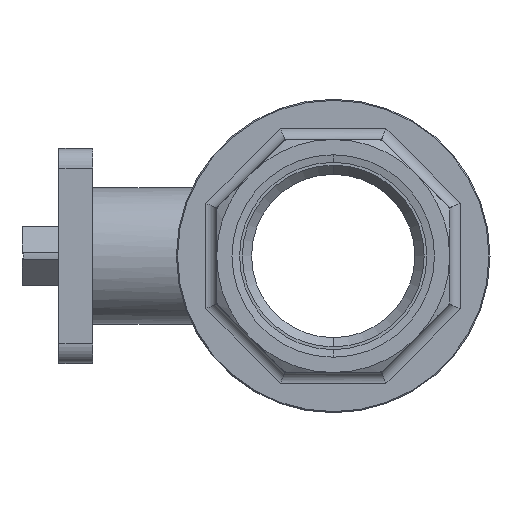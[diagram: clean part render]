
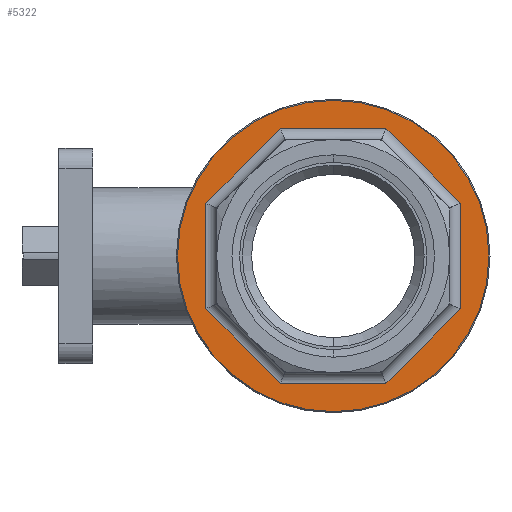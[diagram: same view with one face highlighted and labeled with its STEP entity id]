
A CAD part, left-side view. The second image highlights one B-rep face of the part: STEP entity #5322.
In plain terms, the highlighted planar face has unit normal (-1, 0, 0).
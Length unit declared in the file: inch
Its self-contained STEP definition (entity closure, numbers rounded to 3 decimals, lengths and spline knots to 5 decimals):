
#21 = LINE ( 'NONE', #884, #3412 ) ;
#63 = FACE_BOUND ( 'NONE', #6834, .T. ) ;
#83 = DIRECTION ( 'NONE',  ( 0., -0.707, -0.707 ) ) ;
#117 = DIRECTION ( 'NONE',  ( 0., 0.707, -0.707 ) ) ;
#144 = DIRECTION ( 'NONE',  ( 0., 0., 1. ) ) ;
#275 = VERTEX_POINT ( 'NONE', #3163 ) ;
#316 = DIRECTION ( 'NONE',  ( -1., 0., 0. ) ) ;
#379 = EDGE_CURVE ( 'NONE', #5782, #2802, #5957, .T. ) ;
#415 = ORIENTED_EDGE ( 'NONE', *, *, #1773, .T. ) ;
#468 = DIRECTION ( 'NONE',  ( -1., 0., 0. ) ) ;
#797 = DIRECTION ( 'NONE',  ( 0., 0.707, 0.707 ) ) ;
#884 = CARTESIAN_POINT ( 'NONE',  ( -1.275, 1.14071, -0.51392 ) ) ;
#899 = VECTOR ( 'NONE', #1564, 39.37008 ) ;
#1014 = EDGE_CURVE ( 'NONE', #8117, #5782, #1516, .T. ) ;
#1020 = CARTESIAN_POINT ( 'NONE',  ( -1.275, -0.48463, 1.17 ) ) ;
#1063 = EDGE_CURVE ( 'NONE', #6341, #275, #1312, .T. ) ;
#1182 = ORIENTED_EDGE ( 'NONE', *, *, #1063, .T. ) ;
#1188 = EDGE_CURVE ( 'NONE', #5599, #2752, #2203, .T. ) ;
#1219 = CARTESIAN_POINT ( 'NONE',  ( -1.275, 0., 0. ) ) ;
#1245 = DIRECTION ( 'NONE',  ( -1., 0., 0. ) ) ;
#1255 = ORIENTED_EDGE ( 'NONE', *, *, #379, .T. ) ;
#1273 = DIRECTION ( 'NONE',  ( 0., 0., 1. ) ) ;
#1312 = CIRCLE ( 'NONE', #7340, 1.43 ) ;
#1324 = ORIENTED_EDGE ( 'NONE', *, *, #1566, .T. ) ;
#1353 = LINE ( 'NONE', #7891, #7851 ) ;
#1481 = CIRCLE ( 'NONE', #5857, 1.43 ) ;
#1516 = LINE ( 'NONE', #8074, #6351 ) ;
#1533 = EDGE_LOOP ( 'NONE', ( #1182, #5885 ) ) ;
#1539 = CARTESIAN_POINT ( 'NONE',  ( -1.275, 0.51392, 1.14071 ) ) ;
#1564 = DIRECTION ( 'NONE',  ( 0., -0.707, 0.707 ) ) ;
#1566 = EDGE_CURVE ( 'NONE', #6303, #3218, #6458, .T. ) ;
#1585 = LINE ( 'NONE', #4554, #4552 ) ;
#1689 = ORIENTED_EDGE ( 'NONE', *, *, #6478, .T. ) ;
#1700 = ORIENTED_EDGE ( 'NONE', *, *, #5332, .T. ) ;
#1773 = EDGE_CURVE ( 'NONE', #2752, #8117, #21, .T. ) ;
#2108 = ORIENTED_EDGE ( 'NONE', *, *, #1188, .T. ) ;
#2154 = CARTESIAN_POINT ( 'NONE',  ( -1.275, 0.48463, -1.17 ) ) ;
#2203 = LINE ( 'NONE', #4736, #3696 ) ;
#2211 = ORIENTED_EDGE ( 'NONE', *, *, #1014, .T. ) ;
#2752 = VERTEX_POINT ( 'NONE', #2154 ) ;
#2802 = VERTEX_POINT ( 'NONE', #5396 ) ;
#3137 = DIRECTION ( 'NONE',  ( 0., 0., -1. ) ) ;
#3163 = CARTESIAN_POINT ( 'NONE',  ( -1.275, 0., -1.43 ) ) ;
#3218 = VERTEX_POINT ( 'NONE', #4288 ) ;
#3412 = VECTOR ( 'NONE', #797, 39.37008 ) ;
#3515 = CARTESIAN_POINT ( 'NONE',  ( -1.275, -0.00489, 0.44 ) ) ;
#3696 = VECTOR ( 'NONE', #5261, 39.37008 ) ;
#3806 = EDGE_CURVE ( 'NONE', #275, #6341, #1481, .T. ) ;
#3891 = VECTOR ( 'NONE', #3137, 39.37008 ) ;
#4063 = EDGE_CURVE ( 'NONE', #6693, #5599, #1585, .T. ) ;
#4140 = PLANE ( 'NONE',  #4327 ) ;
#4282 = CARTESIAN_POINT ( 'NONE',  ( -1.275, 0., 0. ) ) ;
#4288 = CARTESIAN_POINT ( 'NONE',  ( -1.275, -1.17, 0.48463 ) ) ;
#4327 = AXIS2_PLACEMENT_3D ( 'NONE', #3515, #316, #4787 ) ;
#4433 = CARTESIAN_POINT ( 'NONE',  ( -1.275, 1.17, -0.48463 ) ) ;
#4552 = VECTOR ( 'NONE', #117, 39.37008 ) ;
#4554 = CARTESIAN_POINT ( 'NONE',  ( -1.275, -0.51392, -1.14071 ) ) ;
#4736 = CARTESIAN_POINT ( 'NONE',  ( -1.275, 0.44321, -1.17 ) ) ;
#4787 = DIRECTION ( 'NONE',  ( 0., 0., 1. ) ) ;
#4804 = VECTOR ( 'NONE', #83, 39.37008 ) ;
#4924 = DIRECTION ( 'NONE',  ( 0., 0., 1. ) ) ;
#4937 = FACE_OUTER_BOUND ( 'NONE', #1533, .T. ) ;
#5261 = DIRECTION ( 'NONE',  ( 0., 1., 0. ) ) ;
#5322 = ADVANCED_FACE ( 'NONE', ( #63, #4937 ), #4140, .T. ) ;
#5332 = EDGE_CURVE ( 'NONE', #2802, #6303, #1353, .T. ) ;
#5396 = CARTESIAN_POINT ( 'NONE',  ( -1.275, 0.48463, 1.17 ) ) ;
#5413 = DIRECTION ( 'NONE',  ( 0., -1., 0. ) ) ;
#5437 = CARTESIAN_POINT ( 'NONE',  ( -1.275, -1.17, -0.48463 ) ) ;
#5599 = VERTEX_POINT ( 'NONE', #7179 ) ;
#5782 = VERTEX_POINT ( 'NONE', #6131 ) ;
#5857 = AXIS2_PLACEMENT_3D ( 'NONE', #4282, #468, #4924 ) ;
#5885 = ORIENTED_EDGE ( 'NONE', *, *, #3806, .T. ) ;
#5950 = LINE ( 'NONE', #6277, #3891 ) ;
#5957 = LINE ( 'NONE', #1539, #899 ) ;
#6131 = CARTESIAN_POINT ( 'NONE',  ( -1.275, 1.17, 0.48463 ) ) ;
#6277 = CARTESIAN_POINT ( 'NONE',  ( -1.275, -1.17, -0.44321 ) ) ;
#6303 = VERTEX_POINT ( 'NONE', #1020 ) ;
#6341 = VERTEX_POINT ( 'NONE', #7993 ) ;
#6351 = VECTOR ( 'NONE', #144, 39.37008 ) ;
#6458 = LINE ( 'NONE', #6997, #4804 ) ;
#6478 = EDGE_CURVE ( 'NONE', #3218, #6693, #5950, .T. ) ;
#6693 = VERTEX_POINT ( 'NONE', #5437 ) ;
#6834 = EDGE_LOOP ( 'NONE', ( #1255, #1700, #1324, #1689, #7318, #2108, #415, #2211 ) ) ;
#6997 = CARTESIAN_POINT ( 'NONE',  ( -1.275, -1.14071, 0.51392 ) ) ;
#7179 = CARTESIAN_POINT ( 'NONE',  ( -1.275, -0.48463, -1.17 ) ) ;
#7318 = ORIENTED_EDGE ( 'NONE', *, *, #4063, .T. ) ;
#7340 = AXIS2_PLACEMENT_3D ( 'NONE', #1219, #1245, #1273 ) ;
#7851 = VECTOR ( 'NONE', #5413, 39.37008 ) ;
#7891 = CARTESIAN_POINT ( 'NONE',  ( -1.275, -0.44321, 1.17 ) ) ;
#7993 = CARTESIAN_POINT ( 'NONE',  ( -1.275, 0., 1.43 ) ) ;
#8074 = CARTESIAN_POINT ( 'NONE',  ( -1.275, 1.17, 0.44321 ) ) ;
#8117 = VERTEX_POINT ( 'NONE', #4433 ) ;
